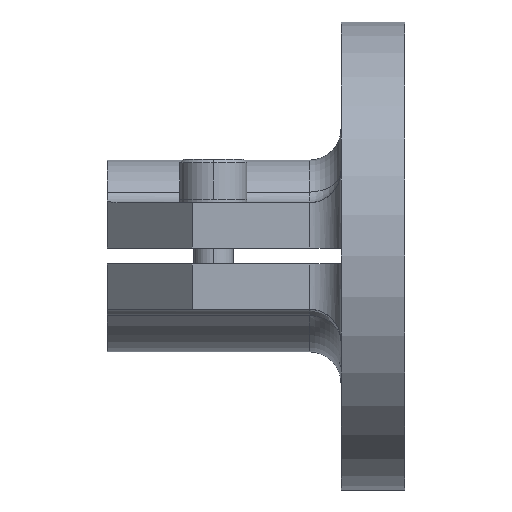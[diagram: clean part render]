
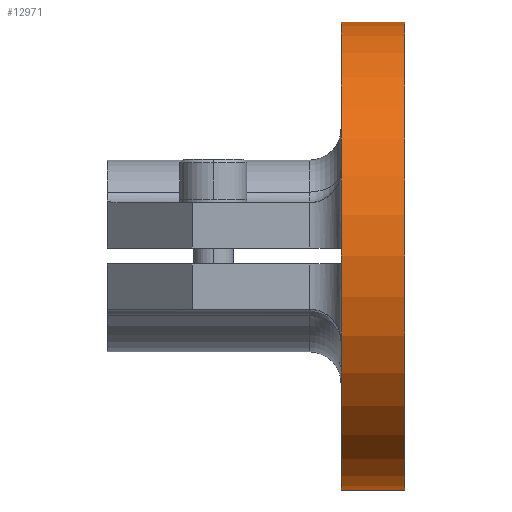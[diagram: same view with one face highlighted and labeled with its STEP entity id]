
A CAD part, left-side view. The second image highlights one B-rep face of the part: STEP entity #12971.
In plain terms, the highlighted cylindrical face has radius 34.925 mm (diameter 69.85 mm), a partial arc.
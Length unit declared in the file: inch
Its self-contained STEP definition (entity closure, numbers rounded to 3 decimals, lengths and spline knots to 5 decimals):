
#1100 = EDGE_LOOP ( 'NONE', ( #10507, #10508, #10509, #10510 ) ) ;
#2472 = CIRCLE ( 'NONE', #23111, 1.375 ) ;
#2868 = CIRCLE ( 'NONE', #23137, 1.375 ) ;
#2977 = LINE ( 'NONE', #5174, #2979 ) ;
#2979 = VECTOR ( 'NONE', #5175, 39.37008 ) ;
#3549 = CARTESIAN_POINT ( 'NONE',  ( 0., 0., 0. ) ) ;
#3550 = DIRECTION ( 'NONE',  ( 0., 1., 0. ) ) ;
#3551 = DIRECTION ( 'NONE',  ( 0., 0., 1. ) ) ;
#4912 = CARTESIAN_POINT ( 'NONE',  ( 0., 0.375, 0. ) ) ;
#4913 = DIRECTION ( 'NONE',  ( 0., 1., 0. ) ) ;
#4914 = DIRECTION ( 'NONE',  ( 0., 0., 1. ) ) ;
#5174 = CARTESIAN_POINT ( 'NONE',  ( 0., 0.375, 1.375 ) ) ;
#5175 = DIRECTION ( 'NONE',  ( 0., -1., 0. ) ) ;
#6311 = CARTESIAN_POINT ( 'NONE',  ( 0., 0.375, -1.375 ) ) ;
#6312 = DIRECTION ( 'NONE',  ( 0., -1., 0. ) ) ;
#7506 = LINE ( 'NONE', #6311, #7507 ) ;
#7507 = VECTOR ( 'NONE', #6312, 39.37008 ) ;
#10194 = VERTEX_POINT ( 'NONE', #15771 ) ;
#10195 = VERTEX_POINT ( 'NONE', #15772 ) ;
#10196 = VERTEX_POINT ( 'NONE', #15773 ) ;
#10197 = VERTEX_POINT ( 'NONE', #15774 ) ;
#10507 = ORIENTED_EDGE ( 'NONE', *, *, #17659, .F. ) ;
#10508 = ORIENTED_EDGE ( 'NONE', *, *, #17581, .F. ) ;
#10509 = ORIENTED_EDGE ( 'NONE', *, *, #17931, .T. ) ;
#10510 = ORIENTED_EDGE ( 'NONE', *, *, #17315, .T. ) ;
#12971 = ADVANCED_FACE ( 'NONE', ( #20779 ), #20780, .T. ) ;
#15422 = AXIS2_PLACEMENT_3D ( 'NONE', #21335, #21336, #21337 ) ;
#15771 = CARTESIAN_POINT ( 'NONE',  ( 0., 0.375, 1.375 ) ) ;
#15772 = CARTESIAN_POINT ( 'NONE',  ( 0., 0.375, -1.375 ) ) ;
#15773 = CARTESIAN_POINT ( 'NONE',  ( 0., 0., 1.375 ) ) ;
#15774 = CARTESIAN_POINT ( 'NONE',  ( 0., 0., -1.375 ) ) ;
#17315 = EDGE_CURVE ( 'NONE', #10197, #10196, #2472, .T. ) ;
#17581 = EDGE_CURVE ( 'NONE', #10195, #10194, #2868, .T. ) ;
#17659 = EDGE_CURVE ( 'NONE', #10194, #10196, #2977, .T. ) ;
#17931 = EDGE_CURVE ( 'NONE', #10195, #10197, #7506, .T. ) ;
#20779 = FACE_OUTER_BOUND ( 'NONE', #1100, .T. ) ;
#20780 = CYLINDRICAL_SURFACE ( 'NONE', #15422, 1.375 ) ;
#21335 = CARTESIAN_POINT ( 'NONE',  ( 0., 0.375, 0. ) ) ;
#21336 = DIRECTION ( 'NONE',  ( 0., -1., 0. ) ) ;
#21337 = DIRECTION ( 'NONE',  ( 0., 0., -1. ) ) ;
#23111 = AXIS2_PLACEMENT_3D ( 'NONE', #3549, #3550, #3551 ) ;
#23137 = AXIS2_PLACEMENT_3D ( 'NONE', #4912, #4913, #4914 ) ;
